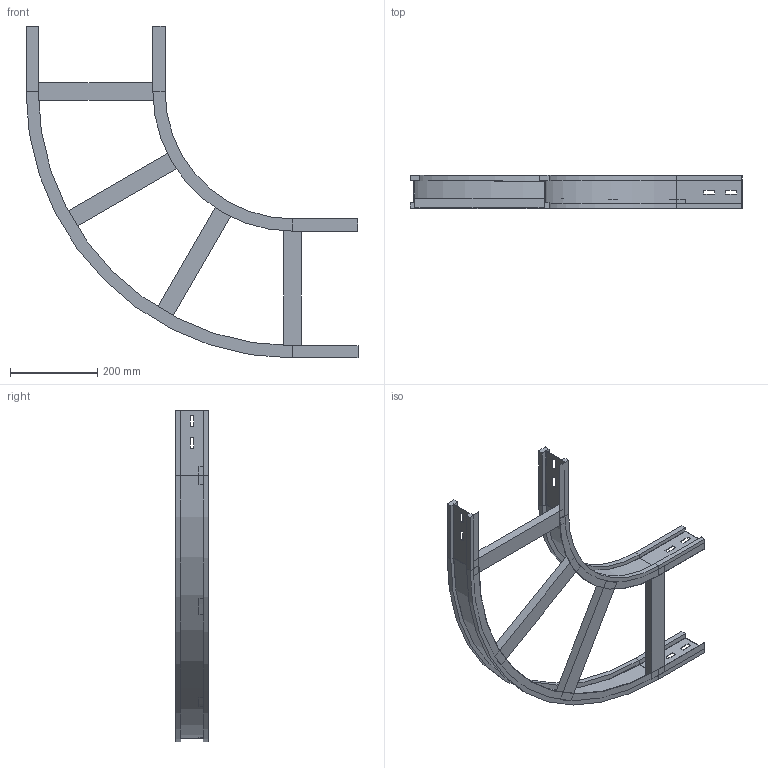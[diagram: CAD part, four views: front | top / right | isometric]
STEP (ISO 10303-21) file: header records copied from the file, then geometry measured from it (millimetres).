
FILE_DESCRIPTION (( 'STEP AP214' ), '1' );
FILE_NAME ('10S3C300.step', '2025-02-21T16:11:13', ( '' ), ( '' ), 'SwSTEP 2.0', 'SolidWorks 2023', '' );
FILE_SCHEMA (( 'AUTOMOTIVE_DESIGN' ));
Length unit declared in the file: millimetre
Products named in the file (4): LONGH.INTERNO 90°_H75_R300; LONGH.ESTERNO 90°_H75_R300+300; TRAVERSINO_300; 10S3C300
Assembly tree (6 placements, depth 2):
  10S3C300
    LONGH.INTERNO 90°_H75_R300
    LONGH.ESTERNO 90°_H75_R300+300
    TRAVERSINO_300  x4
Bounding box: 759 x 75 x 759 mm (x, y, z)
Volume: 1951838.9 mm3; surface area: 646803 mm2
Topology: 6 solids, 6 shells, 132 faces, 312 edges, 192 vertices
Faces by surface type: plane 120, cylinder 12
Entity records: 3397 total; most frequent: CARTESIAN_POINT 567, ORIENTED_EDGE 552, DIRECTION 546, EDGE_CURVE 276, VECTOR 252, LINE 252, VERTEX_POINT 168, AXIS2_PLACEMENT_3D 147
